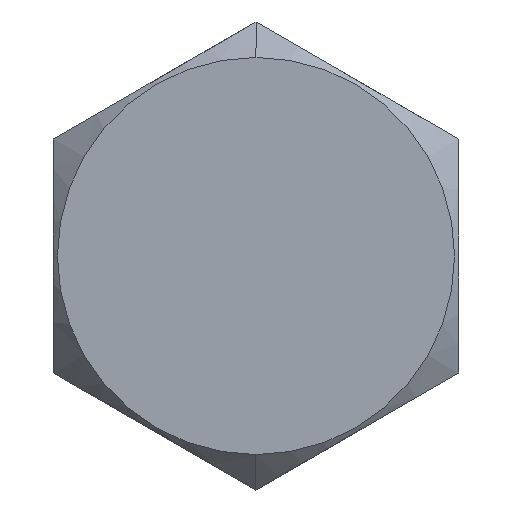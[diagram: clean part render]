
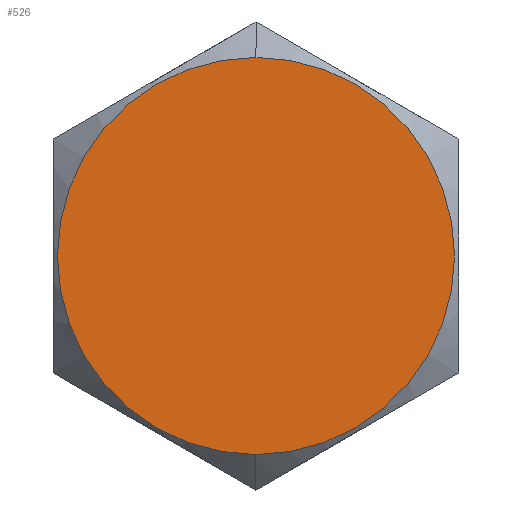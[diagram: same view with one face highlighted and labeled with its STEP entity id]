
A CAD part, left-side view. The second image highlights one B-rep face of the part: STEP entity #526.
In plain terms, the highlighted planar face has unit normal (-1, 0, 0).
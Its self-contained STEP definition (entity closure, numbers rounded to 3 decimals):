
#13 = CARTESIAN_POINT ( 'NONE',  ( 0., 0., 0. ) ) ;
#38 = DIRECTION ( 'NONE',  ( 1., 0., 0. ) ) ;
#128 = EDGE_CURVE ( 'NONE', #302, #751, #347, .T. ) ;
#147 = FACE_OUTER_BOUND ( 'NONE', #777, .T. ) ;
#195 = CARTESIAN_POINT ( 'NONE',  ( 0., 0., 0. ) ) ;
#286 = DIRECTION ( 'NONE',  ( 0., 0., -1. ) ) ;
#291 = ORIENTED_EDGE ( 'NONE', *, *, #668, .F. ) ;
#302 = VERTEX_POINT ( 'NONE', #556 ) ;
#330 = CIRCLE ( 'NONE', #689, 7.838 ) ;
#344 = AXIS2_PLACEMENT_3D ( 'NONE', #13, #765, #391 ) ;
#346 = CARTESIAN_POINT ( 'NONE',  ( 0., 0., 0. ) ) ;
#347 = CIRCLE ( 'NONE', #788, 7.838 ) ;
#388 = DIRECTION ( 'NONE',  ( 0., 0., -1. ) ) ;
#391 = DIRECTION ( 'NONE',  ( 0., 0., -1. ) ) ;
#526 = ADVANCED_FACE ( 'NONE', ( #147 ), #650, .F. ) ;
#556 = CARTESIAN_POINT ( 'NONE',  ( 0., 0., 7.838 ) ) ;
#650 = PLANE ( 'NONE',  #344 ) ;
#668 = EDGE_CURVE ( 'NONE', #751, #302, #330, .T. ) ;
#689 = AXIS2_PLACEMENT_3D ( 'NONE', #346, #38, #286 ) ;
#698 = ORIENTED_EDGE ( 'NONE', *, *, #128, .F. ) ;
#748 = CARTESIAN_POINT ( 'NONE',  ( 0., 0., -7.838 ) ) ;
#751 = VERTEX_POINT ( 'NONE', #748 ) ;
#765 = DIRECTION ( 'NONE',  ( 1., 0., 0. ) ) ;
#766 = DIRECTION ( 'NONE',  ( 1., 0., 0. ) ) ;
#777 = EDGE_LOOP ( 'NONE', ( #291, #698 ) ) ;
#788 = AXIS2_PLACEMENT_3D ( 'NONE', #195, #766, #388 ) ;
